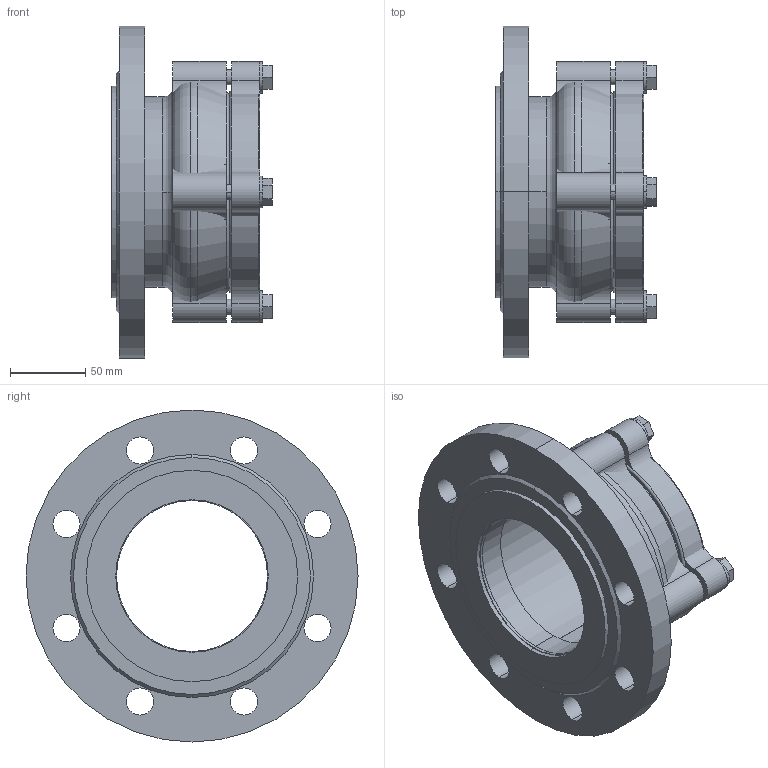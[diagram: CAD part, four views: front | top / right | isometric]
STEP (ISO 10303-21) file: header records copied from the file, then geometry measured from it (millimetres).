
FILE_DESCRIPTION(('STEP AP214'),'1');
FILE_NAME('U:/VDI-Daten/7200-(0400)/7200_PN16_DN100_110.STP','2012-06-15T09:27:52',(' '),(' '),'Spatial InterOp 3D',' ',' ');
FILE_SCHEMA(('automotive_design'));
Length unit declared in the file: millimetre
Products named in the file (26): 3D-Objekt
Bounding box: 106.4 x 220 x 220 mm (x, y, z)
Volume: 1135125 mm3; surface area: 316829.4 mm2
Topology: 26 solids, 26 shells, 198 faces, 434 edges, 288 vertices
Faces by surface type: plane 100, cylinder 80, torus 12, cone 6
Entity records: 7750 total; most frequent: DIRECTION 1086, CARTESIAN_POINT 946, ORIENTED_EDGE 868, EDGE_CURVE 434, AXIS2_PLACEMENT_3D 428, VERTEX_POINT 288, LINE 230, VECTOR 230
